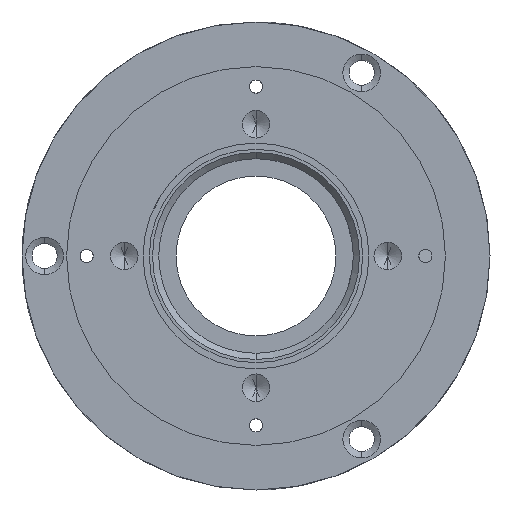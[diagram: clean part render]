
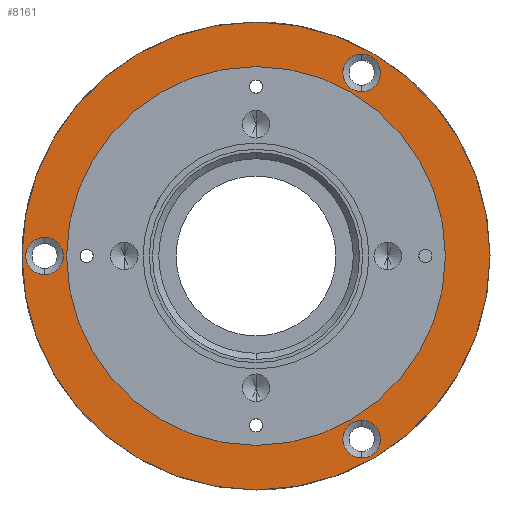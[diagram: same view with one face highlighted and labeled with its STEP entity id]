
A CAD part, front view. The second image highlights one B-rep face of the part: STEP entity #8161.
In plain terms, the highlighted planar face has unit normal (0, -1, 0).
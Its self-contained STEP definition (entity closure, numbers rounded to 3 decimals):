
#26 = CIRCLE ( 'NONE', #896, 6. ) ;
#30 = CARTESIAN_POINT ( 'NONE',  ( -67.4, -8., 6. ) ) ;
#131 = DIRECTION ( 'NONE',  ( 0., -1., 0. ) ) ;
#300 = AXIS2_PLACEMENT_3D ( 'NONE', #7578, #5699, #7638 ) ;
#329 = FACE_BOUND ( 'NONE', #5349, .T. ) ;
#486 = DIRECTION ( 'NONE',  ( 0., 0., -1. ) ) ;
#489 = ORIENTED_EDGE ( 'NONE', *, *, #2942, .F. ) ;
#684 = EDGE_LOOP ( 'NONE', ( #1205, #3585 ) ) ;
#719 = CIRCLE ( 'NONE', #4038, 6. ) ;
#896 = AXIS2_PLACEMENT_3D ( 'NONE', #7838, #1398, #7807 ) ;
#1097 = VERTEX_POINT ( 'NONE', #5997 ) ;
#1138 = CARTESIAN_POINT ( 'NONE',  ( 33.7, -8., 52.37 ) ) ;
#1158 = DIRECTION ( 'NONE',  ( 0., 0., -1. ) ) ;
#1205 = ORIENTED_EDGE ( 'NONE', *, *, #5169, .F. ) ;
#1231 = CIRCLE ( 'NONE', #6480, 6. ) ;
#1398 = DIRECTION ( 'NONE',  ( 0., -1., 0. ) ) ;
#1445 = DIRECTION ( 'NONE',  ( 0., 1., 0. ) ) ;
#1468 = EDGE_CURVE ( 'NONE', #5222, #6000, #2575, .T. ) ;
#1516 = CIRCLE ( 'NONE', #4025, 60.38 ) ;
#1594 = CARTESIAN_POINT ( 'NONE',  ( 0., -8., 0. ) ) ;
#1836 = DIRECTION ( 'NONE',  ( 0., 1., 0. ) ) ;
#2056 = FACE_OUTER_BOUND ( 'NONE', #8063, .T. ) ;
#2390 = DIRECTION ( 'NONE',  ( 0., 0., -1. ) ) ;
#2432 = CARTESIAN_POINT ( 'NONE',  ( 33.7, -8., 64.37 ) ) ;
#2457 = EDGE_LOOP ( 'NONE', ( #8156, #3301 ) ) ;
#2459 = CIRCLE ( 'NONE', #8186, 6. ) ;
#2562 = CIRCLE ( 'NONE', #4072, 74.6 ) ;
#2575 = CIRCLE ( 'NONE', #3128, 6. ) ;
#2866 = AXIS2_PLACEMENT_3D ( 'NONE', #1594, #4736, #7357 ) ;
#2931 = CARTESIAN_POINT ( 'NONE',  ( 33.7, -8., 58.37 ) ) ;
#2942 = EDGE_CURVE ( 'NONE', #4158, #5588, #2562, .T. ) ;
#3037 = DIRECTION ( 'NONE',  ( 0., -1., 0. ) ) ;
#3128 = AXIS2_PLACEMENT_3D ( 'NONE', #2931, #5520, #2390 ) ;
#3137 = EDGE_CURVE ( 'NONE', #6000, #5222, #2459, .T. ) ;
#3301 = ORIENTED_EDGE ( 'NONE', *, *, #7846, .F. ) ;
#3386 = EDGE_CURVE ( 'NONE', #1097, #7069, #6564, .T. ) ;
#3440 = DIRECTION ( 'NONE',  ( 0., 1., 0. ) ) ;
#3484 = VERTEX_POINT ( 'NONE', #7274 ) ;
#3524 = DIRECTION ( 'NONE',  ( 0., 0., 1. ) ) ;
#3585 = ORIENTED_EDGE ( 'NONE', *, *, #4870, .F. ) ;
#3706 = EDGE_CURVE ( 'NONE', #5588, #4158, #7962, .T. ) ;
#3800 = CARTESIAN_POINT ( 'NONE',  ( 33.7, -8., -58.37 ) ) ;
#4023 = CARTESIAN_POINT ( 'NONE',  ( 0., -8., 0. ) ) ;
#4025 = AXIS2_PLACEMENT_3D ( 'NONE', #6534, #1445, #3524 ) ;
#4028 = DIRECTION ( 'NONE',  ( 0., -1., 0. ) ) ;
#4038 = AXIS2_PLACEMENT_3D ( 'NONE', #4722, #4028, #4700 ) ;
#4072 = AXIS2_PLACEMENT_3D ( 'NONE', #4023, #3440, #5999 ) ;
#4158 = VERTEX_POINT ( 'NONE', #7144 ) ;
#4571 = CARTESIAN_POINT ( 'NONE',  ( 33.7, -8., -58.37 ) ) ;
#4700 = DIRECTION ( 'NONE',  ( 0., 0., -1. ) ) ;
#4722 = CARTESIAN_POINT ( 'NONE',  ( -67.4, -8., 0. ) ) ;
#4736 = DIRECTION ( 'NONE',  ( 0., 1., 0. ) ) ;
#4870 = EDGE_CURVE ( 'NONE', #4904, #8056, #5946, .T. ) ;
#4904 = VERTEX_POINT ( 'NONE', #7113 ) ;
#4927 = ORIENTED_EDGE ( 'NONE', *, *, #3386, .T. ) ;
#4932 = AXIS2_PLACEMENT_3D ( 'NONE', #6962, #1836, #5001 ) ;
#5001 = DIRECTION ( 'NONE',  ( 0., 0., 1. ) ) ;
#5169 = EDGE_CURVE ( 'NONE', #8056, #4904, #1231, .T. ) ;
#5222 = VERTEX_POINT ( 'NONE', #2432 ) ;
#5228 = ORIENTED_EDGE ( 'NONE', *, *, #6973, .T. ) ;
#5349 = EDGE_LOOP ( 'NONE', ( #4927, #5228 ) ) ;
#5397 = VERTEX_POINT ( 'NONE', #30 ) ;
#5520 = DIRECTION ( 'NONE',  ( 0., -1., 0. ) ) ;
#5543 = FACE_BOUND ( 'NONE', #684, .T. ) ;
#5588 = VERTEX_POINT ( 'NONE', #6032 ) ;
#5699 = DIRECTION ( 'NONE',  ( 0., 1., 0. ) ) ;
#5755 = EDGE_CURVE ( 'NONE', #3484, #5397, #719, .T. ) ;
#5946 = CIRCLE ( 'NONE', #7342, 6. ) ;
#5950 = FACE_BOUND ( 'NONE', #2457, .T. ) ;
#5997 = CARTESIAN_POINT ( 'NONE',  ( 0., -8., 60.38 ) ) ;
#5999 = DIRECTION ( 'NONE',  ( 0., 0., 1. ) ) ;
#6000 = VERTEX_POINT ( 'NONE', #1138 ) ;
#6032 = CARTESIAN_POINT ( 'NONE',  ( 0., -8., -74.6 ) ) ;
#6197 = CARTESIAN_POINT ( 'NONE',  ( 33.7, -8., -64.37 ) ) ;
#6261 = ORIENTED_EDGE ( 'NONE', *, *, #1468, .F. ) ;
#6480 = AXIS2_PLACEMENT_3D ( 'NONE', #3800, #6999, #1158 ) ;
#6490 = DIRECTION ( 'NONE',  ( 0., 0., -1. ) ) ;
#6534 = CARTESIAN_POINT ( 'NONE',  ( 0., -8., 0. ) ) ;
#6564 = CIRCLE ( 'NONE', #2866, 60.38 ) ;
#6930 = PLANE ( 'NONE',  #4932 ) ;
#6954 = FACE_BOUND ( 'NONE', #8166, .T. ) ;
#6962 = CARTESIAN_POINT ( 'NONE',  ( 60.38, -8., 0. ) ) ;
#6973 = EDGE_CURVE ( 'NONE', #7069, #1097, #1516, .T. ) ;
#6999 = DIRECTION ( 'NONE',  ( 0., -1., 0. ) ) ;
#7069 = VERTEX_POINT ( 'NONE', #7452 ) ;
#7113 = CARTESIAN_POINT ( 'NONE',  ( 33.7, -8., -52.37 ) ) ;
#7144 = CARTESIAN_POINT ( 'NONE',  ( 0., -8., 74.6 ) ) ;
#7274 = CARTESIAN_POINT ( 'NONE',  ( -67.4, -8., -6. ) ) ;
#7342 = AXIS2_PLACEMENT_3D ( 'NONE', #4571, #131, #6490 ) ;
#7357 = DIRECTION ( 'NONE',  ( 0., 0., 1. ) ) ;
#7452 = CARTESIAN_POINT ( 'NONE',  ( 0., -8., -60.38 ) ) ;
#7529 = ORIENTED_EDGE ( 'NONE', *, *, #3706, .F. ) ;
#7578 = CARTESIAN_POINT ( 'NONE',  ( 0., -8., 0. ) ) ;
#7638 = DIRECTION ( 'NONE',  ( 0., 0., 1. ) ) ;
#7807 = DIRECTION ( 'NONE',  ( 0., 0., -1. ) ) ;
#7813 = ORIENTED_EDGE ( 'NONE', *, *, #3137, .F. ) ;
#7838 = CARTESIAN_POINT ( 'NONE',  ( -67.4, -8., 0. ) ) ;
#7846 = EDGE_CURVE ( 'NONE', #5397, #3484, #26, .T. ) ;
#7962 = CIRCLE ( 'NONE', #300, 74.6 ) ;
#8056 = VERTEX_POINT ( 'NONE', #6197 ) ;
#8063 = EDGE_LOOP ( 'NONE', ( #489, #7529 ) ) ;
#8156 = ORIENTED_EDGE ( 'NONE', *, *, #5755, .F. ) ;
#8161 = ADVANCED_FACE ( 'NONE', ( #5543, #6954, #5950, #2056, #329 ), #6930, .F. ) ;
#8166 = EDGE_LOOP ( 'NONE', ( #7813, #6261 ) ) ;
#8167 = CARTESIAN_POINT ( 'NONE',  ( 33.7, -8., 58.37 ) ) ;
#8186 = AXIS2_PLACEMENT_3D ( 'NONE', #8167, #3037, #486 ) ;
